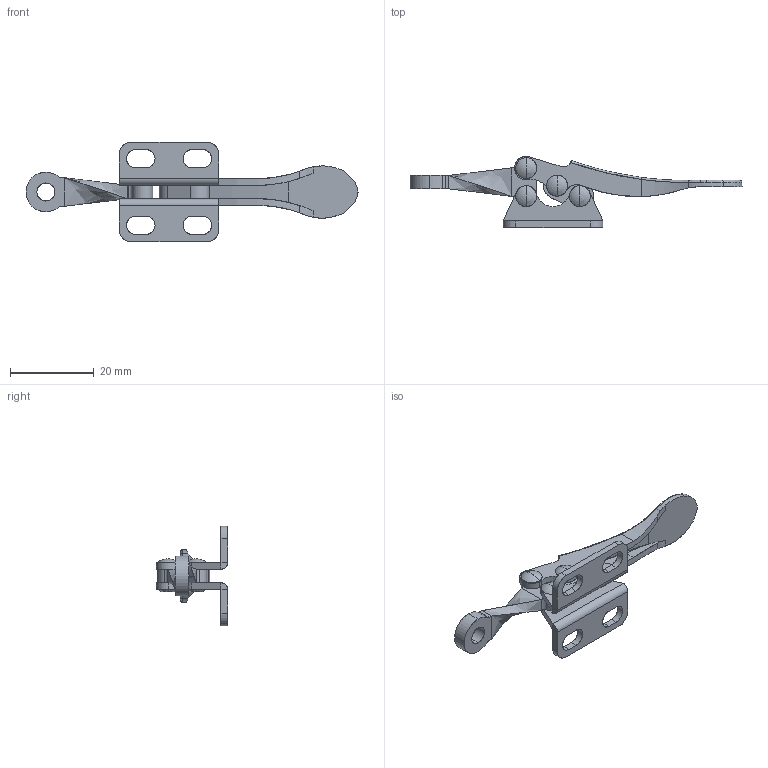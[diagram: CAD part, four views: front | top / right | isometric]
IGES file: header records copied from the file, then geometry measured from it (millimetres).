
Start section: SolidWorks IGES file using analytic representation for surfaces
Global section: file name: D:\GH Files\GH-SW-FILES\GH2\201\201-a.IGS; native system: SolidWorks 2006 by SolidWorks Corporation; preprocessor: SolidWorks 2006 by SolidWorks Corporation; author: Administrator; date: 060706.173040; units: millimetre
Bounding box: 79.24 x 17 x 23.8 mm (x, y, z)
Surface area: 4639.1 mm2 (no closed solid volume)
Topology: 0 solids, 0 shells, 227 faces, 3261 edges, 3245 vertices
Faces by surface type: revolution 131, bspline 96
